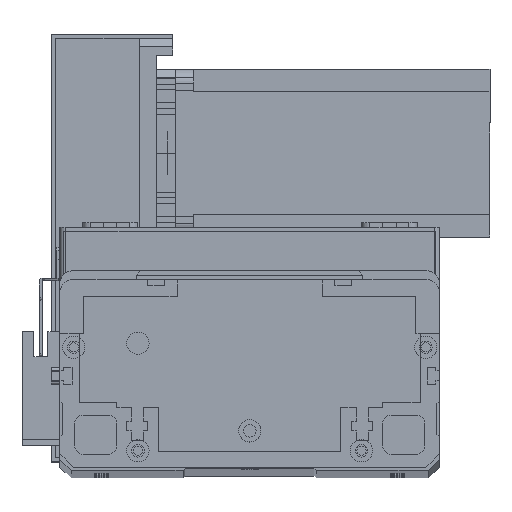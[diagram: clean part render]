
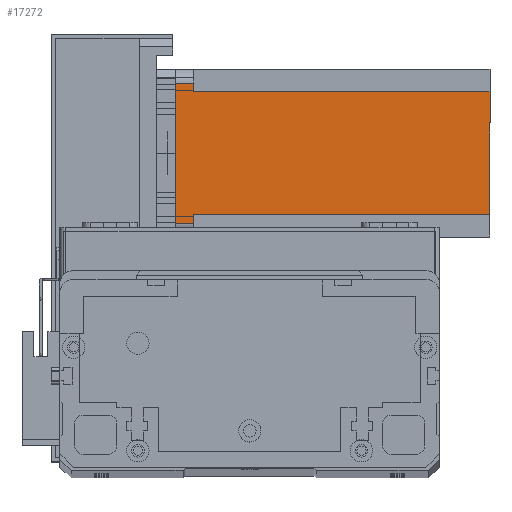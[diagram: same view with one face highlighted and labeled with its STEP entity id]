
A CAD part, top view. The second image highlights one B-rep face of the part: STEP entity #17272.
In plain terms, the highlighted planar face has unit normal (0, 0, 1) as drawn and (0, -1, 0) by its records, which use the part's own axes.
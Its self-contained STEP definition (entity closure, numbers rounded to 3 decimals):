
#23 = CARTESIAN_POINT ( 'NONE',  ( 52., 0., -112.5 ) ) ;
#979 = VERTEX_POINT ( 'NONE', #1648 ) ;
#1293 = LINE ( 'NONE', #22782, #12849 ) ;
#1648 = CARTESIAN_POINT ( 'NONE',  ( 55., 0., -6.5 ) ) ;
#1675 = ORIENTED_EDGE ( 'NONE', *, *, #12477, .F. ) ;
#2652 = CARTESIAN_POINT ( 'NONE',  ( 55., 0., 0. ) ) ;
#3753 = DIRECTION ( 'NONE',  ( 0., 0., 1. ) ) ;
#4193 = CARTESIAN_POINT ( 'NONE',  ( 5., 0., 0. ) ) ;
#4203 = VECTOR ( 'NONE', #24949, 1000. ) ;
#4445 = VERTEX_POINT ( 'NONE', #2652 ) ;
#5150 = EDGE_CURVE ( 'NONE', #8529, #25661, #23610, .T. ) ;
#5891 = ORIENTED_EDGE ( 'NONE', *, *, #15873, .T. ) ;
#6697 = DIRECTION ( 'NONE',  ( 1., 0., 0. ) ) ;
#7031 = EDGE_CURVE ( 'NONE', #8529, #4445, #10373, .T. ) ;
#7045 = CARTESIAN_POINT ( 'NONE',  ( 52., 0., -6.5 ) ) ;
#7335 = CARTESIAN_POINT ( 'NONE',  ( 5., 0., -112.5 ) ) ;
#7473 = PLANE ( 'NONE',  #14200 ) ;
#7694 = VECTOR ( 'NONE', #12246, 1000. ) ;
#7784 = ORIENTED_EDGE ( 'NONE', *, *, #22042, .T. ) ;
#7860 = EDGE_LOOP ( 'NONE', ( #7784, #5891, #15361, #8349, #20252, #1675, #17645, #13075 ) ) ;
#8021 = CARTESIAN_POINT ( 'NONE',  ( 52., 0., -6.5 ) ) ;
#8251 = VECTOR ( 'NONE', #10915, 1000. ) ;
#8349 = ORIENTED_EDGE ( 'NONE', *, *, #5150, .T. ) ;
#8415 = VECTOR ( 'NONE', #20665, 1000. ) ;
#8529 = VERTEX_POINT ( 'NONE', #4193 ) ;
#9896 = CARTESIAN_POINT ( 'NONE',  ( 8., 0., -112.5 ) ) ;
#10303 = VERTEX_POINT ( 'NONE', #7045 ) ;
#10350 = DIRECTION ( 'NONE',  ( 1., 0., 0. ) ) ;
#10373 = LINE ( 'NONE', #20860, #4203 ) ;
#10915 = DIRECTION ( 'NONE',  ( 0., 0., 1. ) ) ;
#12246 = DIRECTION ( 'NONE',  ( -1., 0., 0. ) ) ;
#12477 = EDGE_CURVE ( 'NONE', #25477, #25224, #20323, .T. ) ;
#12849 = VECTOR ( 'NONE', #6697, 1000. ) ;
#13075 = ORIENTED_EDGE ( 'NONE', *, *, #16621, .F. ) ;
#13554 = CARTESIAN_POINT ( 'NONE',  ( 8., 0., -6.5 ) ) ;
#13759 = LINE ( 'NONE', #21194, #7694 ) ;
#14200 = AXIS2_PLACEMENT_3D ( 'NONE', #25679, #27927, #14358 ) ;
#14358 = DIRECTION ( 'NONE',  ( 0., 0., -1. ) ) ;
#14448 = LINE ( 'NONE', #23, #8415 ) ;
#15361 = ORIENTED_EDGE ( 'NONE', *, *, #7031, .F. ) ;
#15873 = EDGE_CURVE ( 'NONE', #979, #4445, #23067, .T. ) ;
#16621 = EDGE_CURVE ( 'NONE', #10303, #26290, #14448, .T. ) ;
#16678 = CARTESIAN_POINT ( 'NONE',  ( 52., 0., -112.5 ) ) ;
#17272 = ADVANCED_FACE ( 'NONE', ( #27525 ), #7473, .T. ) ;
#17521 = VECTOR ( 'NONE', #28664, 1000. ) ;
#17645 = ORIENTED_EDGE ( 'NONE', *, *, #26704, .T. ) ;
#17943 = EDGE_CURVE ( 'NONE', #25224, #25661, #13759, .T. ) ;
#20252 = ORIENTED_EDGE ( 'NONE', *, *, #17943, .F. ) ;
#20323 = LINE ( 'NONE', #22282, #8251 ) ;
#20665 = DIRECTION ( 'NONE',  ( 0., 0., -1. ) ) ;
#20860 = CARTESIAN_POINT ( 'NONE',  ( 0., 0., 0. ) ) ;
#20971 = VECTOR ( 'NONE', #10350, 1000. ) ;
#21194 = CARTESIAN_POINT ( 'NONE',  ( 8., 0., -6.5 ) ) ;
#21715 = LINE ( 'NONE', #8021, #20971 ) ;
#21976 = CARTESIAN_POINT ( 'NONE',  ( 55., 0., -112.5 ) ) ;
#22042 = EDGE_CURVE ( 'NONE', #10303, #979, #21715, .T. ) ;
#22282 = CARTESIAN_POINT ( 'NONE',  ( 8., 0., -112.5 ) ) ;
#22782 = CARTESIAN_POINT ( 'NONE',  ( 0., 0., -112.5 ) ) ;
#23067 = LINE ( 'NONE', #21976, #28321 ) ;
#23610 = LINE ( 'NONE', #7335, #17521 ) ;
#24949 = DIRECTION ( 'NONE',  ( 1., 0., 0. ) ) ;
#25224 = VERTEX_POINT ( 'NONE', #13554 ) ;
#25477 = VERTEX_POINT ( 'NONE', #9896 ) ;
#25661 = VERTEX_POINT ( 'NONE', #26438 ) ;
#25679 = CARTESIAN_POINT ( 'NONE',  ( 0., 0., -112.5 ) ) ;
#26290 = VERTEX_POINT ( 'NONE', #16678 ) ;
#26438 = CARTESIAN_POINT ( 'NONE',  ( 5., 0., -6.5 ) ) ;
#26704 = EDGE_CURVE ( 'NONE', #25477, #26290, #1293, .T. ) ;
#27525 = FACE_OUTER_BOUND ( 'NONE', #7860, .T. ) ;
#27927 = DIRECTION ( 'NONE',  ( 0., -1., 0. ) ) ;
#28321 = VECTOR ( 'NONE', #3753, 1000. ) ;
#28664 = DIRECTION ( 'NONE',  ( 0., 0., -1. ) ) ;
